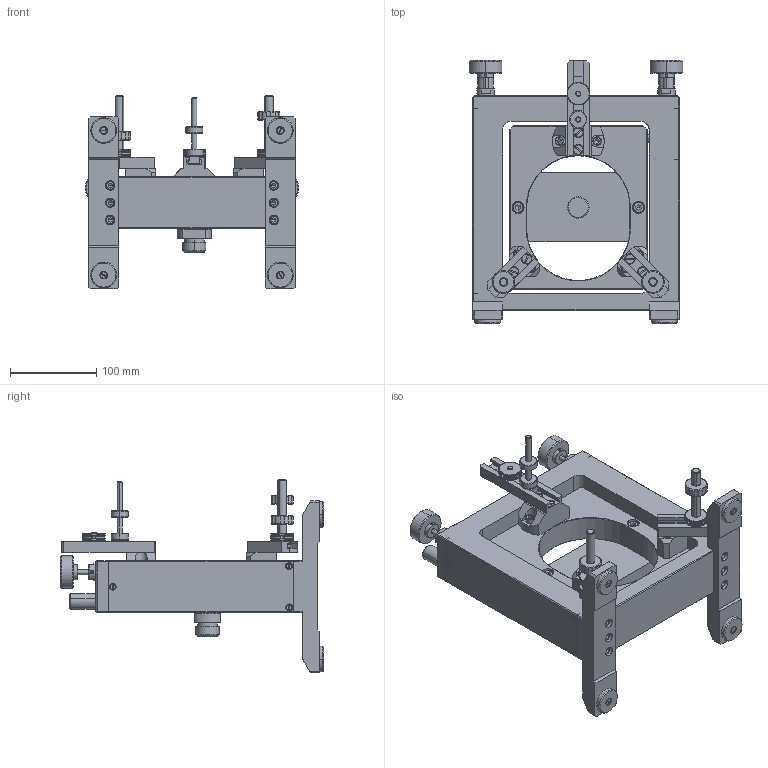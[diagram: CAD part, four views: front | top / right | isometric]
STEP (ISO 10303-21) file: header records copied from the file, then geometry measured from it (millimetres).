
FILE_DESCRIPTION((''),'2;1');
FILE_NAME('5AM-250.stp','2017-02-21T08:12:01',(''),(''),'Mechanical Desktop 2011','Mechanical Desktop 2011',', , ');
FILE_SCHEMA(('CONFIG_CONTROL_DESIGN'));
Length unit declared in the file: millimetre
Products named in the file (1): Product
Bounding box: 248 x 305.84 x 225 mm (x, y, z)
Volume: 2449640.4 mm3; surface area: 429614 mm2
Topology: 2 solids, 71 shells, 3430 faces, 7772 edges, 4476 vertices
Faces by surface type: plane 1982, bspline 593, cone 418, cylinder 381, torus 50, sphere 6
Entity records: 103339 total; most frequent: CARTESIAN_POINT 29345, DIRECTION 15512, ORIENTED_EDGE 15264, EDGE_CURVE 7632, AXIS2_PLACEMENT_3D 5823, VERTEX_POINT 4476, VECTOR 3866, LINE 3866
